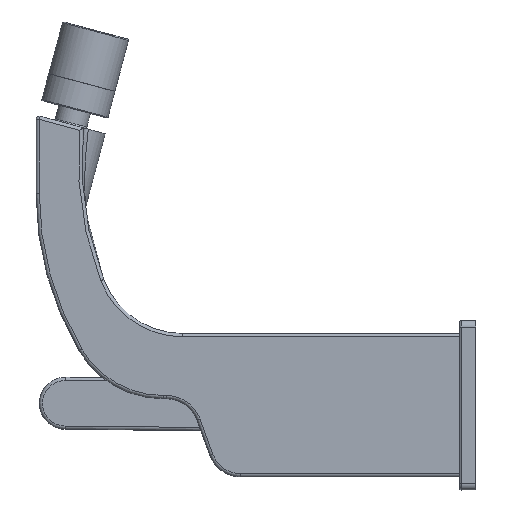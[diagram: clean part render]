
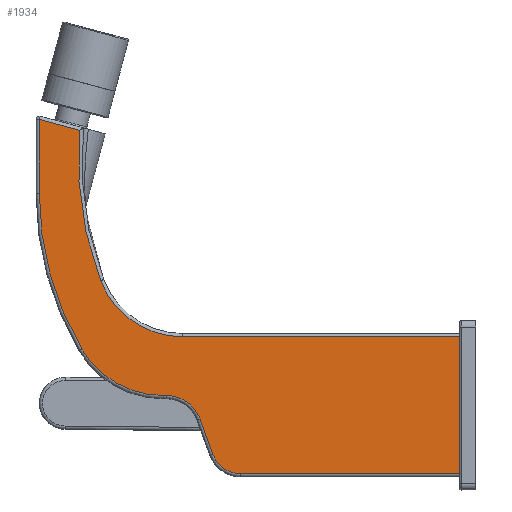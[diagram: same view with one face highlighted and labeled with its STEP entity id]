
A CAD part, left-side view. The second image highlights one B-rep face of the part: STEP entity #1934.
In plain terms, the highlighted planar face has unit normal (-1, 0, 0).
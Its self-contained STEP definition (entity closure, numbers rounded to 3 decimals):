
#109=LINE('',#11865,#202);
#116=LINE('',#11897,#209);
#117=LINE('',#11900,#210);
#118=LINE('',#11902,#211);
#119=LINE('',#11908,#212);
#120=LINE('',#11910,#213);
#121=LINE('',#11916,#214);
#202=VECTOR('',#2485,42.);
#209=VECTOR('',#2516,11.536);
#210=VECTOR('',#2519,67.261);
#211=VECTOR('',#2520,85.);
#212=VECTOR('',#2525,12.906);
#213=VECTOR('',#2526,22.697);
#214=VECTOR('',#2531,1.);
#406=FACE_OUTER_BOUND('',#542,.T.);
#542=EDGE_LOOP('',(#1473,#1474,#1475,#1476,#1477,#1478,#1479,#1480,#1481,
#1482,#1483,#1484,#1485));
#677=CIRCLE('',#2122,9.);
#678=CIRCLE('',#2123,27.);
#679=CIRCLE('',#2124,101.);
#680=CIRCLE('',#2125,94.);
#681=CIRCLE('',#2126,29.);
#682=CIRCLE('',#2127,11.);
#847=VERTEX_POINT('',#11862);
#848=VERTEX_POINT('',#11864);
#860=VERTEX_POINT('',#11895);
#861=VERTEX_POINT('',#11896);
#862=VERTEX_POINT('',#11898);
#863=VERTEX_POINT('',#11901);
#864=VERTEX_POINT('',#11903);
#865=VERTEX_POINT('',#11905);
#866=VERTEX_POINT('',#11907);
#867=VERTEX_POINT('',#11909);
#868=VERTEX_POINT('',#11911);
#869=VERTEX_POINT('',#11913);
#870=VERTEX_POINT('',#11915);
#1069=EDGE_CURVE('',#847,#848,#109,.T.);
#1084=EDGE_CURVE('',#860,#861,#116,.T.);
#1085=EDGE_CURVE('',#862,#860,#677,.T.);
#1086=EDGE_CURVE('',#848,#862,#117,.T.);
#1087=EDGE_CURVE('',#863,#847,#118,.T.);
#1088=EDGE_CURVE('',#864,#863,#678,.T.);
#1089=EDGE_CURVE('',#865,#864,#679,.T.);
#1090=EDGE_CURVE('',#866,#865,#119,.T.);
#1091=EDGE_CURVE('',#867,#866,#120,.T.);
#1092=EDGE_CURVE('',#868,#867,#680,.T.);
#1093=EDGE_CURVE('',#869,#868,#681,.T.);
#1094=EDGE_CURVE('',#870,#869,#121,.T.);
#1095=EDGE_CURVE('',#861,#870,#682,.T.);
#1473=ORIENTED_EDGE('',*,*,#1084,.F.);
#1474=ORIENTED_EDGE('',*,*,#1085,.F.);
#1475=ORIENTED_EDGE('',*,*,#1086,.F.);
#1476=ORIENTED_EDGE('',*,*,#1069,.F.);
#1477=ORIENTED_EDGE('',*,*,#1087,.F.);
#1478=ORIENTED_EDGE('',*,*,#1088,.F.);
#1479=ORIENTED_EDGE('',*,*,#1089,.F.);
#1480=ORIENTED_EDGE('',*,*,#1090,.F.);
#1481=ORIENTED_EDGE('',*,*,#1091,.F.);
#1482=ORIENTED_EDGE('',*,*,#1092,.F.);
#1483=ORIENTED_EDGE('',*,*,#1093,.F.);
#1484=ORIENTED_EDGE('',*,*,#1094,.F.);
#1485=ORIENTED_EDGE('',*,*,#1095,.F.);
#1863=PLANE('',#2121);
#1934=ADVANCED_FACE('',(#406),#1863,.F.);
#2121=AXIS2_PLACEMENT_3D('',#11894,#2514,#2515);
#2122=AXIS2_PLACEMENT_3D('',#11899,#2517,#2518);
#2123=AXIS2_PLACEMENT_3D('',#11904,#2521,#2522);
#2124=AXIS2_PLACEMENT_3D('',#11906,#2523,#2524);
#2125=AXIS2_PLACEMENT_3D('',#11912,#2527,#2528);
#2126=AXIS2_PLACEMENT_3D('',#11914,#2529,#2530);
#2127=AXIS2_PLACEMENT_3D('',#11917,#2532,#2533);
#2485=DIRECTION('',(0.,0.,-1.));
#2514=DIRECTION('center_axis',(1.,0.,0.));
#2515=DIRECTION('ref_axis',(0.,0.,-1.));
#2516=DIRECTION('',(0.,0.342,0.94));
#2517=DIRECTION('center_axis',(1.,0.,0.));
#2518=DIRECTION('ref_axis',(0.,0.,-1.));
#2519=DIRECTION('',(0.,1.,0.));
#2520=DIRECTION('',(0.,-1.,0.));
#2521=DIRECTION('center_axis',(-1.,0.,0.));
#2522=DIRECTION('ref_axis',(0.,0.,1.));
#2523=DIRECTION('center_axis',(-1.,0.,0.));
#2524=DIRECTION('ref_axis',(0.,0.,1.));
#2525=DIRECTION('',(0.,-0.966,-0.259));
#2526=DIRECTION('',(0.,0.,1.));
#2527=DIRECTION('center_axis',(1.,0.,0.));
#2528=DIRECTION('ref_axis',(0.,0.862,-0.508));
#2529=DIRECTION('center_axis',(1.,0.,0.));
#2530=DIRECTION('ref_axis',(0.,0.,-1.));
#2531=DIRECTION('',(0.,1.,0.));
#2532=DIRECTION('center_axis',(-1.,0.,0.));
#2533=DIRECTION('ref_axis',(0.,0.,1.));
#11862=CARTESIAN_POINT('',(-22.,0.,21.));
#11864=CARTESIAN_POINT('',(-22.,0.,-21.));
#11865=CARTESIAN_POINT('',(-22.,0.,21.));
#11894=CARTESIAN_POINT('Origin',(-22.,0.,33.674));
#11895=CARTESIAN_POINT('',(-22.,75.718,-15.078));
#11896=CARTESIAN_POINT('',(-22.,79.663,-4.238));
#11897=CARTESIAN_POINT('',(-22.,75.718,-15.078));
#11898=CARTESIAN_POINT('',(-22.,67.261,-21.));
#11899=CARTESIAN_POINT('Origin',(-22.,67.261,-12.));
#11900=CARTESIAN_POINT('',(-22.,0.,-21.));
#11901=CARTESIAN_POINT('',(-22.,85.,21.));
#11902=CARTESIAN_POINT('',(-22.,85.,21.));
#11903=CARTESIAN_POINT('',(-22.,110.178,38.249));
#11904=CARTESIAN_POINT('Origin',(-22.,85.,48.));
#11905=CARTESIAN_POINT('',(-22.,116.534,84.356));
#11906=CARTESIAN_POINT('Origin',(-22.,15.994,74.724));
#11907=CARTESIAN_POINT('',(-22.,129.,87.697));
#11908=CARTESIAN_POINT('',(-22.,129.,87.697));
#11909=CARTESIAN_POINT('',(-22.,129.,65.));
#11910=CARTESIAN_POINT('',(-22.,129.,65.));
#11911=CARTESIAN_POINT('',(-22.,115.985,17.277));
#11912=CARTESIAN_POINT('Origin',(-22.,35.,65.));
#11913=CARTESIAN_POINT('',(-22.,91.,3.));
#11914=CARTESIAN_POINT('Origin',(-22.,91.,32.));
#11915=CARTESIAN_POINT('',(-22.,90.,3.));
#11916=CARTESIAN_POINT('',(-22.,90.,3.));
#11917=CARTESIAN_POINT('Origin',(-22.,90.,-8.));
